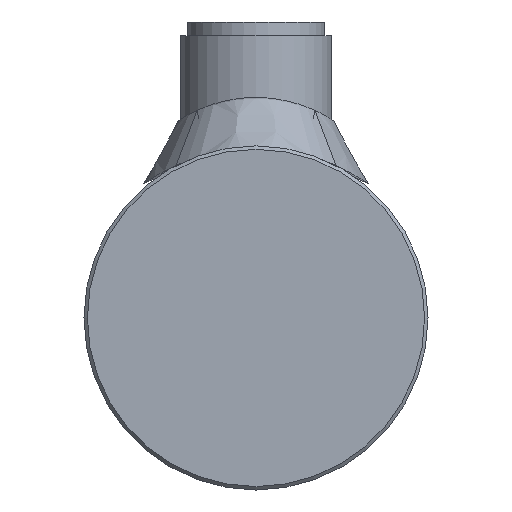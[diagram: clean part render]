
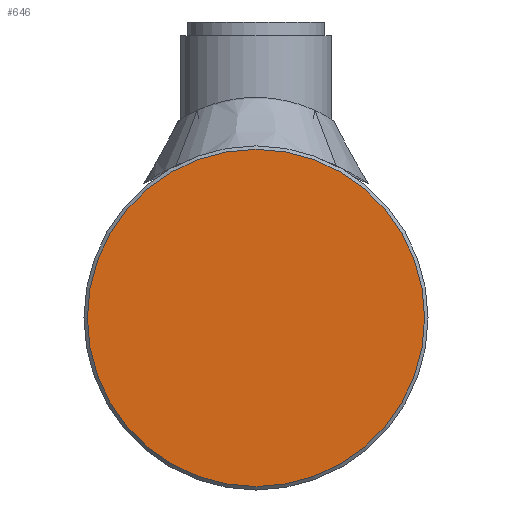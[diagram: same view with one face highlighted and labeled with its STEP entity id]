
A CAD part, left-side view. The second image highlights one B-rep face of the part: STEP entity #646.
In plain terms, the highlighted planar face has unit normal (-1, 0, 0).
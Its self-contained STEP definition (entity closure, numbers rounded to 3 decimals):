
#646 = ADVANCED_FACE( '', ( #1228 ), #1229, .T. );
#1228 = FACE_OUTER_BOUND( '', #2945, .T. );
#1229 = PLANE( '', #2946 );
#2945 = EDGE_LOOP( '', ( #4958 ) );
#2946 = AXIS2_PLACEMENT_3D( '', #4959, #4960, #4961 );
#4958 = ORIENTED_EDGE( '', *, *, #5750, .T. );
#4959 = CARTESIAN_POINT( '', ( -10., 0., 0. ) );
#4960 = DIRECTION( '', ( -1., 0., 0. ) );
#4961 = DIRECTION( '', ( 0., -1., 0. ) );
#5750 = EDGE_CURVE( '', #6324, #6324, #6325, .T. );
#6324 = VERTEX_POINT( '', #7277 );
#6325 = CIRCLE( '', #7278, 24.5 );
#7277 = CARTESIAN_POINT( '', ( -10., -24.5, 0. ) );
#7278 = AXIS2_PLACEMENT_3D( '', #8340, #8341, #8342 );
#8340 = CARTESIAN_POINT( '', ( -10., 0., 0. ) );
#8341 = DIRECTION( '', ( -1., 0., 0. ) );
#8342 = DIRECTION( '', ( 0., -1., 0. ) );
